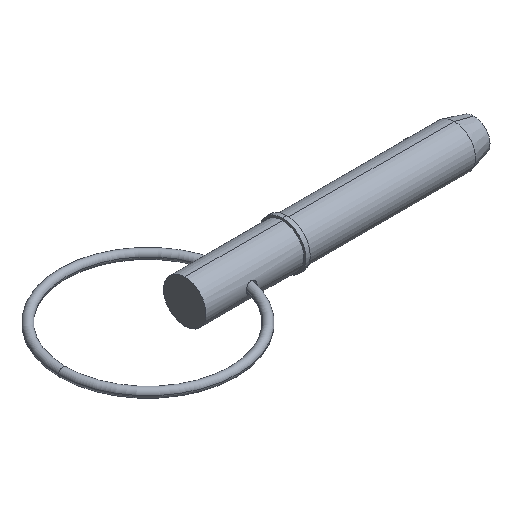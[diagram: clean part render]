
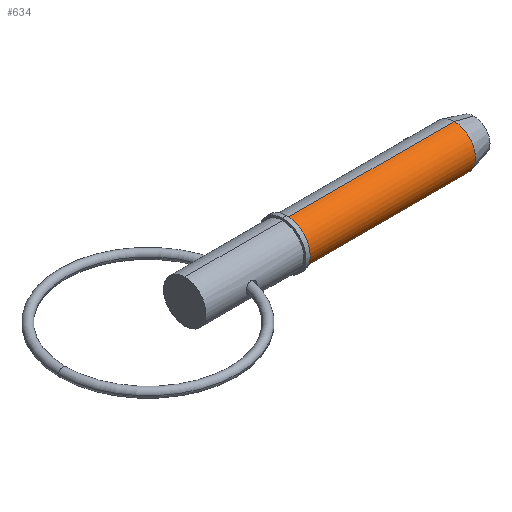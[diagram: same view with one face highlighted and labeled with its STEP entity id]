
A CAD part, isometric view. The second image highlights one B-rep face of the part: STEP entity #634.
In plain terms, the highlighted cylindrical face has radius 3.97 mm (diameter 7.94 mm), a partial arc.
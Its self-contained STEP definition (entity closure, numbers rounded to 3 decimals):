
#37 = DIRECTION ( 'NONE',  ( 0., 0., -1. ) ) ;
#103 = DIRECTION ( 'NONE',  ( 0., 0., -1. ) ) ;
#114 = AXIS2_PLACEMENT_3D ( 'NONE', #795, #781, #103 ) ;
#118 = CARTESIAN_POINT ( 'NONE',  ( 19.05, 0., 3.97 ) ) ;
#135 = CARTESIAN_POINT ( 'NONE',  ( 50.276, 0., 3.97 ) ) ;
#174 = EDGE_CURVE ( 'NONE', #824, #894, #708, .T. ) ;
#185 = ORIENTED_EDGE ( 'NONE', *, *, #201, .T. ) ;
#201 = EDGE_CURVE ( 'NONE', #911, #700, #513, .T. ) ;
#209 = ORIENTED_EDGE ( 'NONE', *, *, #757, .F. ) ;
#264 = CARTESIAN_POINT ( 'NONE',  ( 0., 0., -3.97 ) ) ;
#269 = VECTOR ( 'NONE', #553, 1000. ) ;
#280 = DIRECTION ( 'NONE',  ( 1., 0., 0. ) ) ;
#480 = CARTESIAN_POINT ( 'NONE',  ( 19.05, 0., 0. ) ) ;
#513 = LINE ( 'NONE', #264, #695 ) ;
#553 = DIRECTION ( 'NONE',  ( 1., 0., 0. ) ) ;
#588 = ORIENTED_EDGE ( 'NONE', *, *, #662, .T. ) ;
#614 = CIRCLE ( 'NONE', #970, 3.97 ) ;
#626 = ORIENTED_EDGE ( 'NONE', *, *, #174, .F. ) ;
#629 = CIRCLE ( 'NONE', #846, 3.97 ) ;
#634 = ADVANCED_FACE ( 'NONE', ( #872 ), #954, .T. ) ;
#662 = EDGE_CURVE ( 'NONE', #824, #911, #614, .T. ) ;
#665 = CARTESIAN_POINT ( 'NONE',  ( 50.276, 0., -3.97 ) ) ;
#672 = CARTESIAN_POINT ( 'NONE',  ( 19.05, 0., -3.97 ) ) ;
#695 = VECTOR ( 'NONE', #968, 1000. ) ;
#700 = VERTEX_POINT ( 'NONE', #665 ) ;
#704 = CARTESIAN_POINT ( 'NONE',  ( 0., 0., 3.97 ) ) ;
#708 = LINE ( 'NONE', #704, #269 ) ;
#714 = DIRECTION ( 'NONE',  ( 0., 0., -1. ) ) ;
#757 = EDGE_CURVE ( 'NONE', #894, #700, #629, .T. ) ;
#781 = DIRECTION ( 'NONE',  ( 1., 0., 0. ) ) ;
#795 = CARTESIAN_POINT ( 'NONE',  ( 0., 0., 0. ) ) ;
#824 = VERTEX_POINT ( 'NONE', #118 ) ;
#846 = AXIS2_PLACEMENT_3D ( 'NONE', #980, #280, #37 ) ;
#858 = DIRECTION ( 'NONE',  ( 1., 0., 0. ) ) ;
#872 = FACE_OUTER_BOUND ( 'NONE', #994, .T. ) ;
#894 = VERTEX_POINT ( 'NONE', #135 ) ;
#911 = VERTEX_POINT ( 'NONE', #672 ) ;
#954 = CYLINDRICAL_SURFACE ( 'NONE', #114, 3.97 ) ;
#968 = DIRECTION ( 'NONE',  ( 1., 0., 0. ) ) ;
#970 = AXIS2_PLACEMENT_3D ( 'NONE', #480, #858, #714 ) ;
#980 = CARTESIAN_POINT ( 'NONE',  ( 50.276, 0., 0. ) ) ;
#994 = EDGE_LOOP ( 'NONE', ( #626, #588, #185, #209 ) ) ;
